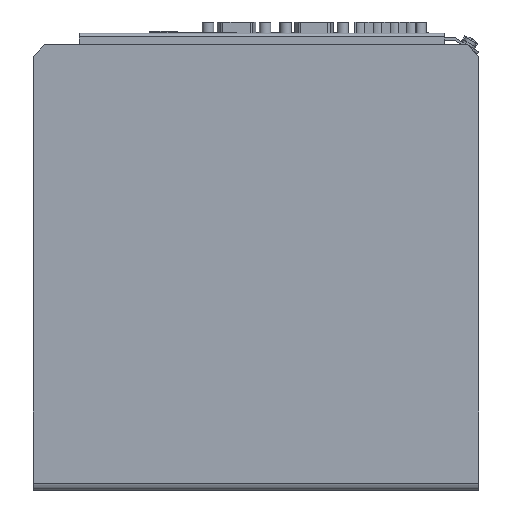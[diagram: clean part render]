
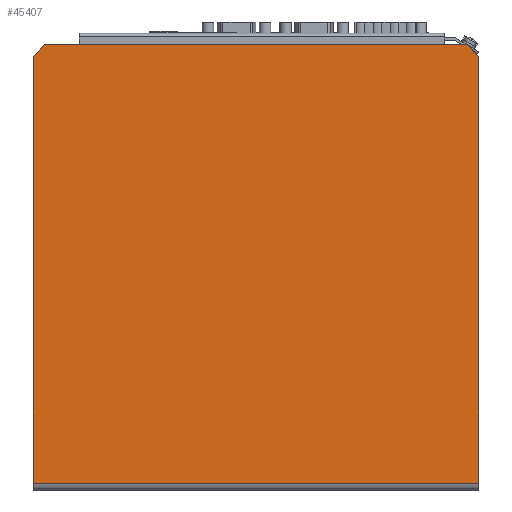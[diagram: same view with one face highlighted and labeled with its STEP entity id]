
A CAD part, left-side view. The second image highlights one B-rep face of the part: STEP entity #45407.
In plain terms, the highlighted planar face has unit normal (-1, 0, 0).
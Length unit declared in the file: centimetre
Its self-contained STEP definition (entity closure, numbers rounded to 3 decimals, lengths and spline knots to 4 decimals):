
#2396=AXIS2_PLACEMENT_3D('',#63731,#15978,$);
#3591=PLANE('',#2396);
#6943=VECTOR('',#15977,1.);
#6944=VECTOR('',#15979,1.);
#6945=VECTOR('',#15980,1.);
#6946=VECTOR('',#15981,1.);
#6947=VECTOR('',#15982,1.);
#6948=VECTOR('',#15983,1.);
#10363=LINE('',#63730,#6943);
#10364=LINE('',#63732,#6944);
#10365=LINE('',#63734,#6945);
#10366=LINE('',#63736,#6946);
#10367=LINE('',#63738,#6947);
#10368=LINE('',#63740,#6948);
#15977=DIRECTION('',(0.,1.,0.));
#15978=DIRECTION('',(-1.,0.,0.));
#15979=DIRECTION('',(0.,0.,1.));
#15980=DIRECTION('',(0.,0.707,0.707));
#15981=DIRECTION('',(0.,1.,0.));
#15982=DIRECTION('',(0.,0.707,-0.707));
#15983=DIRECTION('',(0.,0.,1.));
#19917=VERTEX_POINT('',#63724);
#19920=VERTEX_POINT('',#63729);
#19921=VERTEX_POINT('',#63733);
#19922=VERTEX_POINT('',#63735);
#19923=VERTEX_POINT('',#63737);
#19924=VERTEX_POINT('',#63739);
#26941=EDGE_CURVE('',#19920,#19917,#10363,.T.);
#26942=EDGE_CURVE('',#19920,#19921,#10364,.T.);
#26943=EDGE_CURVE('',#19921,#19922,#10365,.T.);
#26944=EDGE_CURVE('',#19922,#19923,#10366,.T.);
#26945=EDGE_CURVE('',#19923,#19924,#10367,.T.);
#26946=EDGE_CURVE('',#19917,#19924,#10368,.T.);
#37727=ORIENTED_EDGE('',*,*,#26941,.F.);
#37728=ORIENTED_EDGE('',*,*,#26942,.T.);
#37729=ORIENTED_EDGE('',*,*,#26943,.T.);
#37730=ORIENTED_EDGE('',*,*,#26944,.T.);
#37731=ORIENTED_EDGE('',*,*,#26945,.T.);
#37732=ORIENTED_EDGE('',*,*,#26946,.F.);
#40612=EDGE_LOOP('',(#37727,#37728,#37729,#37730,#37731,#37732));
#43222=FACE_BOUND('',#40612,.T.);
#45407=ADVANCED_FACE('',(#43222),#3591,.T.);
#63724=CARTESIAN_POINT('',(0.,19.5,0.3));
#63729=CARTESIAN_POINT('',(0.,0.,0.3));
#63730=CARTESIAN_POINT('',(0.,9.4584,0.3));
#63731=CARTESIAN_POINT('',(0.,9.75,0.));
#63732=CARTESIAN_POINT('',(0.,0.,0.));
#63733=CARTESIAN_POINT('',(0.,0.,19.));
#63734=CARTESIAN_POINT('',(0.,-2.1875,16.8125));
#63735=CARTESIAN_POINT('',(0.,0.5,19.5));
#63736=CARTESIAN_POINT('',(0.,9.7,19.5));
#63737=CARTESIAN_POINT('',(0.,19.,19.5));
#63738=CARTESIAN_POINT('',(0.,21.6875,16.8125));
#63739=CARTESIAN_POINT('',(0.,19.5,19.));
#63740=CARTESIAN_POINT('',(0.,19.5,0.));
